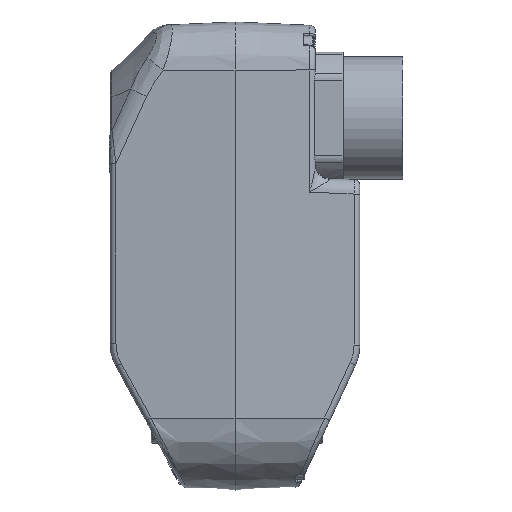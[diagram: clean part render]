
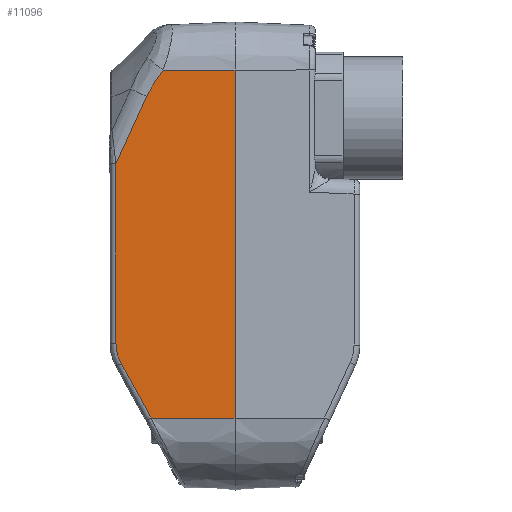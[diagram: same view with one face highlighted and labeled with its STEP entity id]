
A CAD part, left-side view. The second image highlights one B-rep face of the part: STEP entity #11096.
In plain terms, the highlighted planar face has unit normal (-0.999, 0.044, 0).
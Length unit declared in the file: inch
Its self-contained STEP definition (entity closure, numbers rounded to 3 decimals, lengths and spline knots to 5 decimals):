
#373=B_SPLINE_CURVE_WITH_KNOTS('',3,(#20110,#20111,#20112,#20113,#20114),
 .UNSPECIFIED.,.F.,.F.,(4,1,4),(-1.30415,-0.55892,0.),
 .UNSPECIFIED.);
#574=ELLIPSE('',#12031,0.68963,0.68898);
#660=PLANE('',#12030);
#1353=FACE_OUTER_BOUND('',#2000,.T.);
#2000=EDGE_LOOP('',(#8790,#8791,#8792,#8793,#8794,#8795,#8796,#8797));
#2307=LINE('',#15052,#3152);
#2723=LINE('',#20045,#3568);
#2740=LINE('',#20668,#3585);
#2741=LINE('',#20672,#3586);
#2742=LINE('',#20675,#3587);
#2743=LINE('',#20676,#3588);
#3152=VECTOR('',#12364,0.3937);
#3568=VECTOR('',#13920,0.3937);
#3585=VECTOR('',#14027,0.3937);
#3586=VECTOR('',#14030,0.3937);
#3587=VECTOR('',#14033,0.3937);
#3588=VECTOR('',#14034,0.3937);
#4359=VERTEX_POINT('',#15049);
#4360=VERTEX_POINT('',#15051);
#5059=VERTEX_POINT('',#20035);
#5068=VERTEX_POINT('',#20108);
#5082=VERTEX_POINT('',#20657);
#5083=VERTEX_POINT('',#20670);
#5084=VERTEX_POINT('',#20671);
#5085=VERTEX_POINT('',#20673);
#5397=EDGE_CURVE('',#4360,#4359,#2307,.T.);
#6358=EDGE_CURVE('',#4359,#5059,#2723,.T.);
#6371=EDGE_CURVE('',#5068,#5059,#373,.T.);
#6415=EDGE_CURVE('',#4360,#5082,#2740,.T.);
#6416=EDGE_CURVE('',#5083,#5084,#2741,.T.);
#6417=EDGE_CURVE('',#5085,#5083,#574,.T.);
#6418=EDGE_CURVE('',#5082,#5085,#2742,.T.);
#6419=EDGE_CURVE('',#5084,#5068,#2743,.T.);
#8790=ORIENTED_EDGE('',*,*,#6416,.F.);
#8791=ORIENTED_EDGE('',*,*,#6417,.F.);
#8792=ORIENTED_EDGE('',*,*,#6418,.F.);
#8793=ORIENTED_EDGE('',*,*,#6415,.F.);
#8794=ORIENTED_EDGE('',*,*,#5397,.T.);
#8795=ORIENTED_EDGE('',*,*,#6358,.T.);
#8796=ORIENTED_EDGE('',*,*,#6371,.F.);
#8797=ORIENTED_EDGE('',*,*,#6419,.F.);
#11096=ADVANCED_FACE('',(#1353),#660,.T.);
#12030=AXIS2_PLACEMENT_3D('',#20669,#14028,#14029);
#12031=AXIS2_PLACEMENT_3D('',#20674,#14031,#14032);
#12364=DIRECTION('',(0.,0.,1.));
#13920=DIRECTION('',(0.044,0.999,0.));
#14027=DIRECTION('',(0.044,0.999,0.));
#14028=DIRECTION('center_axis',(-0.999,0.044,0.));
#14029=DIRECTION('ref_axis',(0.,0.,
1.));
#14030=DIRECTION('',(0.,0.,1.));
#14031=DIRECTION('center_axis',(0.999,-0.044,0.));
#14032=DIRECTION('ref_axis',(0.044,0.999,0.));
#14033=DIRECTION('',(0.021,0.482,0.876));
#14034=DIRECTION('',(-0.018,-0.415,0.91));
#15049=CARTESIAN_POINT('',(-1.1811,0.,0.7874));
#15051=CARTESIAN_POINT('',(-1.1811,0.,-4.92126));
#15052=CARTESIAN_POINT('',(-1.1811,0.,0.44901));
#20035=CARTESIAN_POINT('',(-1.12969,1.1776,0.7874));
#20045=CARTESIAN_POINT('',(-1.1811,0.,0.7874));
#20108=CARTESIAN_POINT('',(-1.11781,1.44961,0.35335));
#20110=CARTESIAN_POINT('Ctrl Pts',(-1.11781,1.44961,0.35335));
#20111=CARTESIAN_POINT('Ctrl Pts',(-1.11958,1.40902,0.44232));
#20112=CARTESIAN_POINT('Ctrl Pts',(-1.12341,1.32136,0.58987));
#20113=CARTESIAN_POINT('Ctrl Pts',(-1.12776,1.22171,0.72882));
#20114=CARTESIAN_POINT('Ctrl Pts',(-1.12969,1.1776,0.7874));
#20657=CARTESIAN_POINT('',(-1.12102,1.37622,-4.92126));
#20668=CARTESIAN_POINT('',(-1.12958,1.17998,-4.92126));
#20669=CARTESIAN_POINT('Origin',(-1.1811,0.,
0.44901));
#20670=CARTESIAN_POINT('',(-1.09583,1.95311,-3.69539));
#20671=CARTESIAN_POINT('',(-1.09583,1.95311,-0.75015));
#20672=CARTESIAN_POINT('',(-1.09583,1.95311,-0.83695));
#20673=CARTESIAN_POINT('',(-1.09955,1.86783,-4.02742));
#20674=CARTESIAN_POINT('Origin',(-1.12591,1.26414,-3.69539));
#20675=CARTESIAN_POINT('',(-1.0657,2.64311,-2.61781));
#20676=CARTESIAN_POINT('',(-1.12153,1.36441,0.54007));
